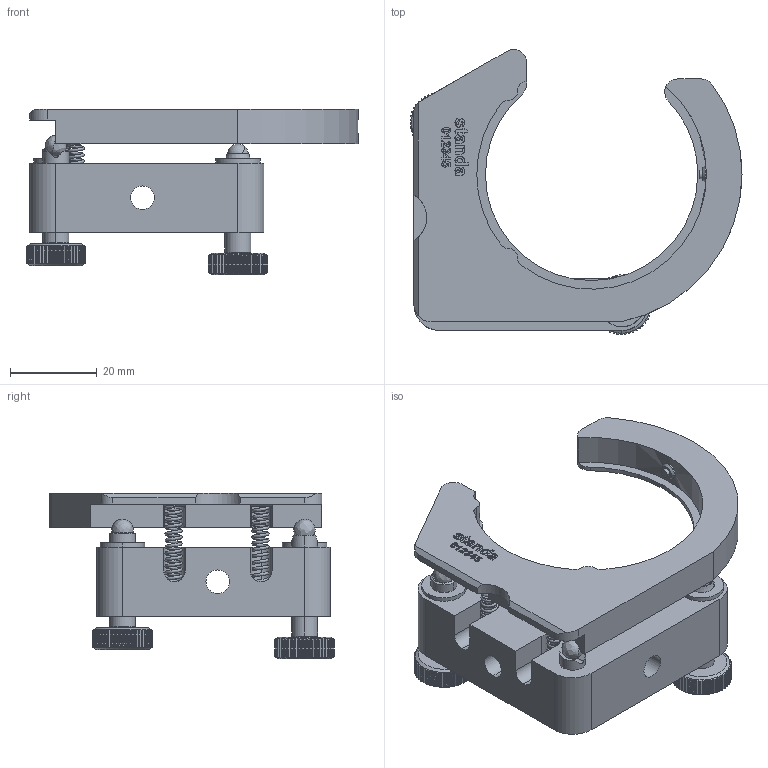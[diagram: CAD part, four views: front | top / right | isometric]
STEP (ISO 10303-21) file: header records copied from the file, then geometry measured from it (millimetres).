
FILE_DESCRIPTION (( 'STEP AP203' ), '1' );
FILE_NAME ('5F21-2.STEP', '2010-01-04T14:16:04', ( 'Darius' ), ( '' ), 'SwSTEP 2.0', 'SolidWorks 2003240', '' );
FILE_SCHEMA (( 'CONFIG_CONTROL_DESIGN' ));
Products named in the file (1): 5F21-2
Bounding box: 76.6 x 65.71 x 38.21 mm (x, y, z)
Volume: 31721.7 mm3; surface area: 15357.1 mm2
Topology: 1 solids, 1 shells, 1293 faces, 3763 edges, 2486 vertices
Faces by surface type: cylinder 523, plane 432, bspline 291, cone 47
Entity records: 62189 total; most frequent: CARTESIAN_POINT 31882, ORIENTED_EDGE 7498, DIRECTION 4446, EDGE_CURVE 3749, VERTEX_POINT 2486, B_SPLINE_CURVE_WITH_KNOTS 1731, LINE 1566, VECTOR 1566
